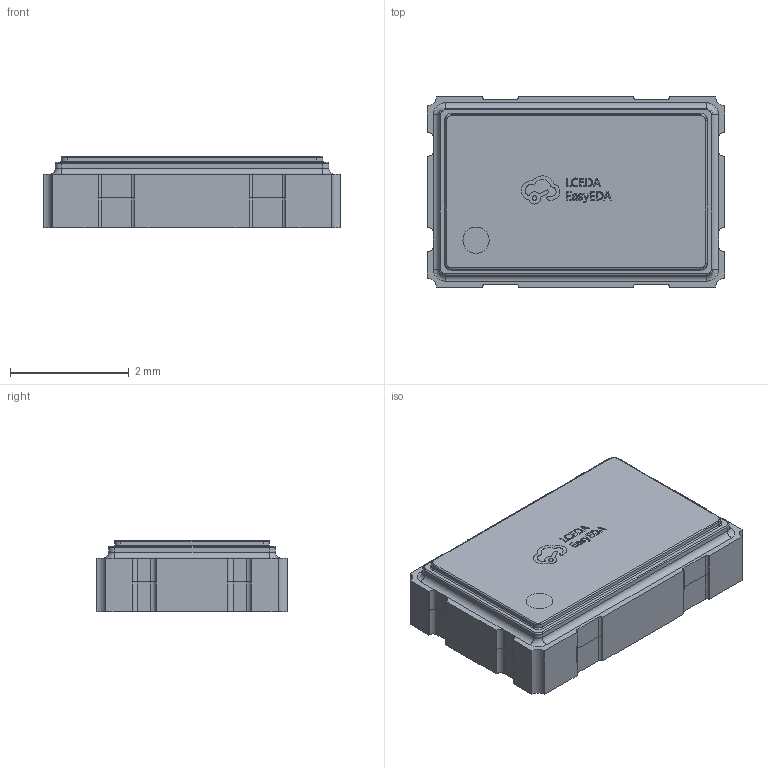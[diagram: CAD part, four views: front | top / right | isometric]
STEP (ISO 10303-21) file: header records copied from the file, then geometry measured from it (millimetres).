
FILE_DESCRIPTION (( 'STEP AP214' ), '1' );
FILE_NAME ('OSC-SMD_4P-L5.0-W3.2-BL_SIT8103AI.step', '2022-07-07T03:22:23', ( '' ), ( '' ), 'SwSTEP 2.0', 'SolidWorks 2020', '' );
FILE_SCHEMA (( 'AUTOMOTIVE_DESIGN' ));
Length unit declared in the file: millimetre
Products named in the file (1): OSC-SMD_4P-L5.0-W3.2-BL_SIT8103AI
Bounding box: 5 x 3.2 x 1.2 mm (x, y, z)
Volume: 17.8 mm3; surface area: 49.9 mm2
Topology: 1 solids, 1 shells, 462 faces, 1256 edges, 824 vertices
Faces by surface type: plane 272, bspline 112, cylinder 62, torus 16
Entity records: 20141 total; most frequent: CARTESIAN_POINT 4647, ORIENTED_EDGE 2512, DIRECTION 1870, EDGE_CURVE 1256, LINE 888, VECTOR 888, VERTEX_POINT 824, AXIS2_PLACEMENT_3D 491
